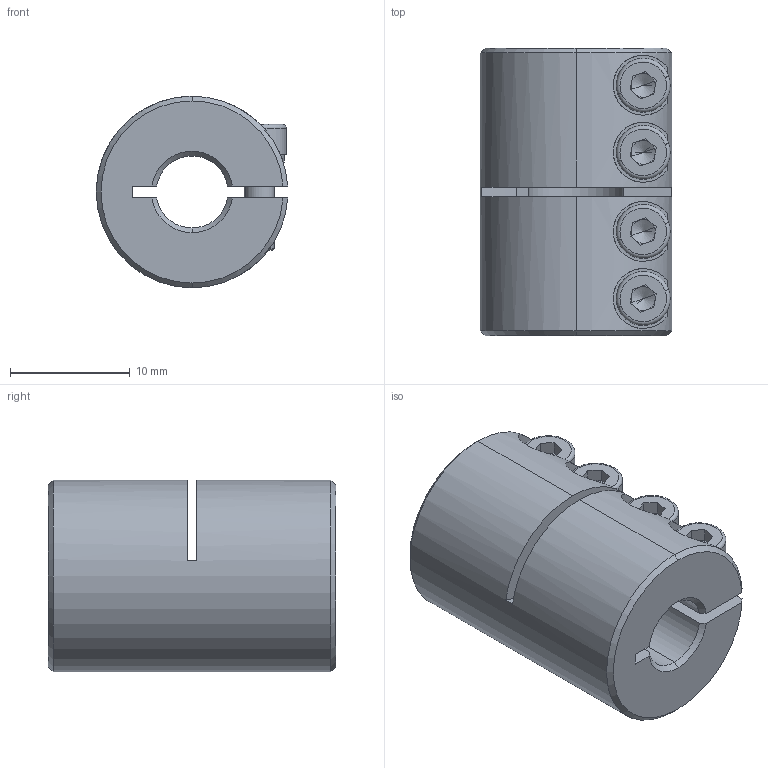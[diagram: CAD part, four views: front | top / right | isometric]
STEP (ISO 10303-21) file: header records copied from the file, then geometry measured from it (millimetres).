
FILE_DESCRIPTION (( 'STEP AP203' ), '1' );
FILE_NAME ('LL-B-D16L24-6-8.STEP', '2021-11-03T04:37:56', ( '' ), ( '' ), 'SwSTEP 2.0', 'SolidWorks 2018', '' );
FILE_SCHEMA (( 'CONFIG_CONTROL_DESIGN' ));
Length unit declared in the file: millimetre
Products named in the file (1): LL-B-D16L24-6-8
Bounding box: 15.98 x 24 x 16 mm (x, y, z)
Volume: 3588.2 mm3; surface area: 2932.2 mm2
Topology: 1 solids, 1 shells, 205 faces, 533 edges, 332 vertices
Faces by surface type: plane 92, cylinder 77, cone 28, torus 8
Entity records: 6700 total; most frequent: CARTESIAN_POINT 1537, DIRECTION 1109, ORIENTED_EDGE 1050, EDGE_CURVE 525, AXIS2_PLACEMENT_3D 432, VERTEX_POINT 332, LINE 245, VECTOR 245
